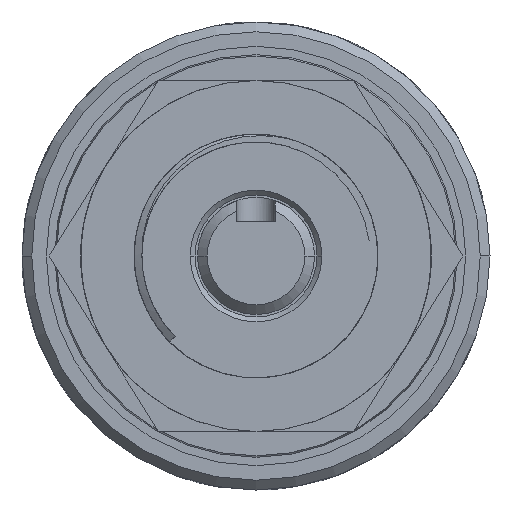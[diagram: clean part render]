
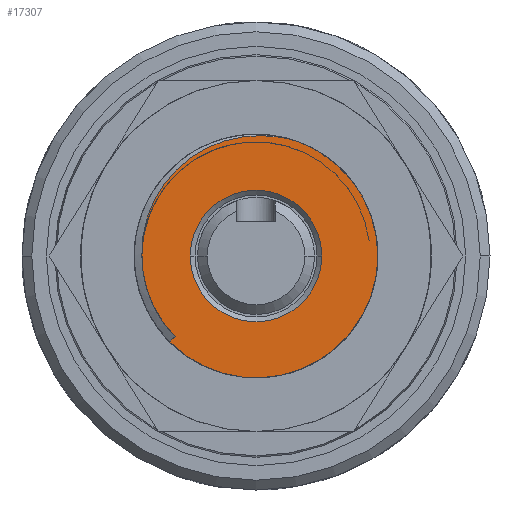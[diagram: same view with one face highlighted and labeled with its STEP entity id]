
A CAD part, left-side view. The second image highlights one B-rep face of the part: STEP entity #17307.
In plain terms, the highlighted planar face has unit normal (-1, 0, 0).
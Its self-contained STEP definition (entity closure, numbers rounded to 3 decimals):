
#14068 = EDGE_CURVE ( 'NONE', #14151, #14152, #19264, .T. ) ;
#14151 = VERTEX_POINT ( 'NONE', #19776 ) ;
#14152 = VERTEX_POINT ( 'NONE', #19775 ) ;
#16680 = VERTEX_POINT ( 'NONE', #26894 ) ;
#16690 = EDGE_CURVE ( 'NONE', #16706, #16680, #26940, .T. ) ;
#16706 = VERTEX_POINT ( 'NONE', #26971 ) ;
#17307 = ADVANCED_FACE ( 'NONE', ( #28549, #28547 ), #28606, .T. ) ;
#17308 = EDGE_LOOP ( 'NONE', ( #17309, #17310 ) ) ;
#17309 = ORIENTED_EDGE ( 'NONE', *, *, #16690, .T. ) ;
#17310 = ORIENTED_EDGE ( 'NONE', *, *, #17311, .T. ) ;
#17311 = EDGE_CURVE ( 'NONE', #16680, #16706, #28596, .T. ) ;
#17312 = EDGE_LOOP ( 'NONE', ( #17313, #17314, #17315, #17316, #17375 ) ) ;
#17313 = ORIENTED_EDGE ( 'NONE', *, *, #17326, .F. ) ;
#17314 = ORIENTED_EDGE ( 'NONE', *, *, #18221, .F. ) ;
#17315 = ORIENTED_EDGE ( 'NONE', *, *, #14068, .F. ) ;
#17316 = ORIENTED_EDGE ( 'NONE', *, *, #17374, .F. ) ;
#17317 = VERTEX_POINT ( 'NONE', #28592 ) ;
#17326 = EDGE_CURVE ( 'NONE', #18220, #17327, #28578, .T. ) ;
#17327 = VERTEX_POINT ( 'NONE', #28631 ) ;
#17374 = EDGE_CURVE ( 'NONE', #17317, #14151, #30249, .T. ) ;
#17375 = ORIENTED_EDGE ( 'NONE', *, *, #17376, .F. ) ;
#17376 = EDGE_CURVE ( 'NONE', #17327, #17317, #30240, .T. ) ;
#18220 = VERTEX_POINT ( 'NONE', #35848 ) ;
#18221 = EDGE_CURVE ( 'NONE', #14152, #18220, #35884, .T. ) ;
#19260 = DIRECTION ( 'NONE',  ( 0., 1., 0. ) ) ;
#19261 = DIRECTION ( 'NONE',  ( 1., 0., 0. ) ) ;
#19262 = CARTESIAN_POINT ( 'NONE',  ( 40., 0., 0. ) ) ;
#19263 = AXIS2_PLACEMENT_3D ( 'NONE', #19262, #19261, #19260 ) ;
#19264 = CIRCLE ( 'NONE', #19263, 12.5 ) ;
#19775 = CARTESIAN_POINT ( 'NONE',  ( 40., -12.5, 0. ) ) ;
#19776 = CARTESIAN_POINT ( 'NONE',  ( 40., -4.491, 11.665 ) ) ;
#26894 = CARTESIAN_POINT ( 'NONE',  ( 40., 6.75, 0. ) ) ;
#26936 = DIRECTION ( 'NONE',  ( 0., -1., 0. ) ) ;
#26937 = DIRECTION ( 'NONE',  ( 1., 0., 0. ) ) ;
#26938 = CARTESIAN_POINT ( 'NONE',  ( 40., 0., 0. ) ) ;
#26939 = AXIS2_PLACEMENT_3D ( 'NONE', #26938, #26937, #26936 ) ;
#26940 = CIRCLE ( 'NONE', #26939, 6.75 ) ;
#26971 = CARTESIAN_POINT ( 'NONE',  ( 40., -6.75, 0. ) ) ;
#28547 = FACE_OUTER_BOUND ( 'NONE', #17312, .T. ) ;
#28549 = FACE_BOUND ( 'NONE', #17308, .T. ) ;
#28578 = LINE ( 'NONE', #28634, #28633 ) ;
#28592 = CARTESIAN_POINT ( 'NONE',  ( 40., 11.706, 0.055 ) ) ;
#28593 = DIRECTION ( 'NONE',  ( 0., -1., 0. ) ) ;
#28594 = DIRECTION ( 'NONE',  ( 1., 0., 0. ) ) ;
#28595 = AXIS2_PLACEMENT_3D ( 'NONE', #28601, #28594, #28593 ) ;
#28596 = CIRCLE ( 'NONE', #28595, 6.75 ) ;
#28597 = DIRECTION ( 'NONE',  ( 0., -1., 0. ) ) ;
#28598 = DIRECTION ( 'NONE',  ( -1., 0., 0. ) ) ;
#28599 = CARTESIAN_POINT ( 'NONE',  ( 40., 6., 0. ) ) ;
#28600 = AXIS2_PLACEMENT_3D ( 'NONE', #28599, #28598, #28597 ) ;
#28601 = CARTESIAN_POINT ( 'NONE',  ( 40., 0., 0. ) ) ;
#28606 = PLANE ( 'NONE',  #28600 ) ;
#28631 = CARTESIAN_POINT ( 'NONE',  ( 40., 8.304, -8.25 ) ) ;
#28632 = DIRECTION ( 'NONE',  ( 0., -0.672, 0.74 ) ) ;
#28633 = VECTOR ( 'NONE', #28632, 1000. ) ;
#28634 = CARTESIAN_POINT ( 'NONE',  ( 40., 3.157, -2.582 ) ) ;
#30195 = CARTESIAN_POINT ( 'NONE',  ( 40., 0.308, 12.338 ) ) ;
#30196 = CARTESIAN_POINT ( 'NONE',  ( 40., 0.8, 12.3 ) ) ;
#30198 = CARTESIAN_POINT ( 'NONE',  ( 40., 2.251, 12.099 ) ) ;
#30200 = CARTESIAN_POINT ( 'NONE',  ( 40., 3.19, 11.857 ) ) ;
#30201 = CARTESIAN_POINT ( 'NONE',  ( 40., 4.556, 11.32 ) ) ;
#30202 = CARTESIAN_POINT ( 'NONE',  ( 40., 5.003, 11.112 ) ) ;
#30204 = CARTESIAN_POINT ( 'NONE',  ( 40., 5.859, 10.648 ) ) ;
#30206 = CARTESIAN_POINT ( 'NONE',  ( 40., 6.27, 10.391 ) ) ;
#30208 = CARTESIAN_POINT ( 'NONE',  ( 40., 7.061, 9.829 ) ) ;
#30210 = CARTESIAN_POINT ( 'NONE',  ( 40., 7.441, 9.524 ) ) ;
#30212 = CARTESIAN_POINT ( 'NONE',  ( 40., 8.166, 8.862 ) ) ;
#30214 = CARTESIAN_POINT ( 'NONE',  ( 40., 8.507, 8.51 ) ) ;
#30216 = CARTESIAN_POINT ( 'NONE',  ( 40., 9.14, 7.773 ) ) ;
#30218 = CARTESIAN_POINT ( 'NONE',  ( 40., 9.433, 7.387 ) ) ;
#30220 = CARTESIAN_POINT ( 'NONE',  ( 40., 9.972, 6.578 ) ) ;
#30222 = CARTESIAN_POINT ( 'NONE',  ( 40., 10.22, 6.154 ) ) ;
#30224 = CARTESIAN_POINT ( 'NONE',  ( 40., 10.881, 4.839 ) ) ;
#30227 = CARTESIAN_POINT ( 'NONE',  ( 40., 9.333, -7.107 ) ) ;
#30229 = CARTESIAN_POINT ( 'NONE',  ( 40., 8.846, -7.704 ) ) ;
#30231 = CARTESIAN_POINT ( 'NONE',  ( 40., 8.304, -8.25 ) ) ;
#30240 = B_SPLINE_CURVE_WITH_KNOTS ( 'NONE', 3,
 ( #30231, #30229, #30227, #30291, #30290, #30288, #30287, #30286, #30285, #30284 ),
 .UNSPECIFIED., .F., .F.,
 ( 4, 2, 2, 2, 4 ),
 ( 0., 0.002, 0.005, 0.007, 0.009 ),
 .UNSPECIFIED. ) ;
#30242 = CARTESIAN_POINT ( 'NONE',  ( 40., 11.209, 3.926 ) ) ;
#30243 = CARTESIAN_POINT ( 'NONE',  ( 40., 11.532, 2.5 ) ) ;
#30244 = CARTESIAN_POINT ( 'NONE',  ( 40., 11.611, 2.013 ) ) ;
#30245 = CARTESIAN_POINT ( 'NONE',  ( 40., 11.705, 1.036 ) ) ;
#30246 = CARTESIAN_POINT ( 'NONE',  ( 40., 11.721, 0.547 ) ) ;
#30247 = CARTESIAN_POINT ( 'NONE',  ( 40., 11.706, 0.055 ) ) ;
#30249 = B_SPLINE_CURVE_WITH_KNOTS ( 'NONE', 3,
 ( #30247, #30246, #30245, #30244, #30243, #30242, #30224, #30222, #30220, #30218, #30216, #30214, #30212, #30210, #30208, #30206, #30204, #30202, #30201, #30200, #30198, #30196, #30195, #30311, #30309, #30307, #30305, #30303, #30301, #30299 ),
 .UNSPECIFIED., .F., .F.,
 ( 4, 2, 2, 2, 2, 2, 2, 2, 2, 2, 2, 2, 2, 2, 4 ),
 ( 0., 0.001, 0.003, 0.006, 0.007, 0.009, 0.01, 0.012, 0.013, 0.015, 0.018, 0.019, 0.021, 0.022, 0.024 ),
 .UNSPECIFIED. ) ;
#30284 = CARTESIAN_POINT ( 'NONE',  ( 40., 11.706, 0.055 ) ) ;
#30285 = CARTESIAN_POINT ( 'NONE',  ( 40., 11.709, -0.714 ) ) ;
#30286 = CARTESIAN_POINT ( 'NONE',  ( 40., 11.638, -1.476 ) ) ;
#30287 = CARTESIAN_POINT ( 'NONE',  ( 40., 11.345, -2.985 ) ) ;
#30288 = CARTESIAN_POINT ( 'NONE',  ( 40., 11.124, -3.724 ) ) ;
#30290 = CARTESIAN_POINT ( 'NONE',  ( 40., 10.543, -5.144 ) ) ;
#30291 = CARTESIAN_POINT ( 'NONE',  ( 40., 10.182, -5.826 ) ) ;
#30299 = CARTESIAN_POINT ( 'NONE',  ( 40., -4.491, 11.665 ) ) ;
#30301 = CARTESIAN_POINT ( 'NONE',  ( 40., -4.027, 11.826 ) ) ;
#30303 = CARTESIAN_POINT ( 'NONE',  ( 40., -3.553, 11.959 ) ) ;
#30305 = CARTESIAN_POINT ( 'NONE',  ( 40., -2.597, 12.168 ) ) ;
#30307 = CARTESIAN_POINT ( 'NONE',  ( 40., -2.117, 12.243 ) ) ;
#30309 = CARTESIAN_POINT ( 'NONE',  ( 40., -1.151, 12.338 ) ) ;
#30311 = CARTESIAN_POINT ( 'NONE',  ( 40., -0.667, 12.357 ) ) ;
#35843 = CARTESIAN_POINT ( 'NONE',  ( 40., 0., 0. ) ) ;
#35848 = CARTESIAN_POINT ( 'NONE',  ( 40., 8.839, -8.839 ) ) ;
#35881 = DIRECTION ( 'NONE',  ( 0., 1., 0. ) ) ;
#35882 = DIRECTION ( 'NONE',  ( 1., 0., 0. ) ) ;
#35883 = AXIS2_PLACEMENT_3D ( 'NONE', #35843, #35882, #35881 ) ;
#35884 = CIRCLE ( 'NONE', #35883, 12.5 ) ;
